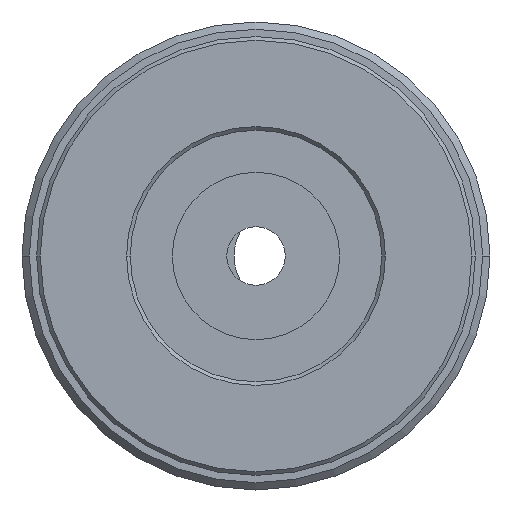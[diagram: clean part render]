
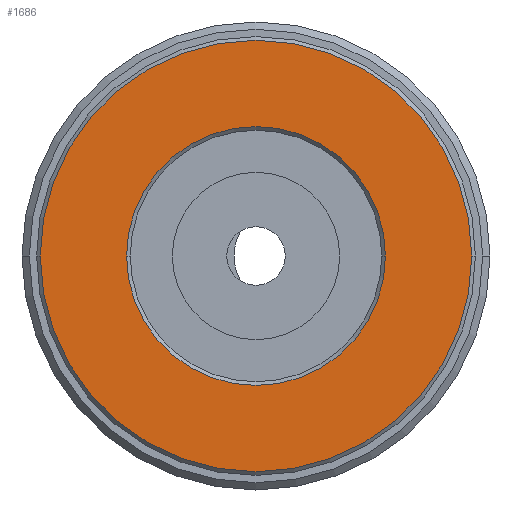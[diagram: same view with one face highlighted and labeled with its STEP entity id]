
A CAD part, front view. The second image highlights one B-rep face of the part: STEP entity #1686.
In plain terms, the highlighted planar face has unit normal (0, -1, 0).
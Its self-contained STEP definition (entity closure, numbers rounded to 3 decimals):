
#23 = CIRCLE ( 'NONE', #1225, 14.75 ) ;
#69 = AXIS2_PLACEMENT_3D ( 'NONE', #1035, #935, #933 ) ;
#175 = EDGE_CURVE ( 'NONE', #2163, #427, #2136, .T. ) ;
#334 = ORIENTED_EDGE ( 'NONE', *, *, #569, .T. ) ;
#427 = VERTEX_POINT ( 'NONE', #1990 ) ;
#449 = DIRECTION ( 'NONE',  ( -1., 0., 0. ) ) ;
#452 = DIRECTION ( 'NONE',  ( 0., -1., 0. ) ) ;
#463 = CARTESIAN_POINT ( 'NONE',  ( 3.431, -20.532, 4.666 ) ) ;
#529 = CIRCLE ( 'NONE', #1412, 14.75 ) ;
#569 = EDGE_CURVE ( 'NONE', #2767, #1087, #529, .T. ) ;
#728 = AXIS2_PLACEMENT_3D ( 'NONE', #3376, #3368, #3365 ) ;
#737 = EDGE_CURVE ( 'NONE', #1087, #2767, #23, .T. ) ;
#888 = CARTESIAN_POINT ( 'NONE',  ( 18.181, -20.532, 4.666 ) ) ;
#933 = DIRECTION ( 'NONE',  ( -1., 0., 0. ) ) ;
#935 = DIRECTION ( 'NONE',  ( 0., 1., 0. ) ) ;
#965 = PLANE ( 'NONE',  #69 ) ;
#1035 = CARTESIAN_POINT ( 'NONE',  ( 12.031, -20.532, 4.666 ) ) ;
#1087 = VERTEX_POINT ( 'NONE', #888 ) ;
#1182 = EDGE_CURVE ( 'NONE', #427, #2163, #1745, .T. ) ;
#1225 = AXIS2_PLACEMENT_3D ( 'NONE', #463, #452, #449 ) ;
#1265 = DIRECTION ( 'NONE',  ( -1., 0., 0. ) ) ;
#1278 = DIRECTION ( 'NONE',  ( 0., -1., 0. ) ) ;
#1288 = CARTESIAN_POINT ( 'NONE',  ( 3.431, -20.532, 4.666 ) ) ;
#1293 = CARTESIAN_POINT ( 'NONE',  ( -11.319, -20.532, 4.666 ) ) ;
#1412 = AXIS2_PLACEMENT_3D ( 'NONE', #1288, #1278, #1265 ) ;
#1686 = ADVANCED_FACE ( 'NONE', ( #3460, #2436 ), #965, .F. ) ;
#1745 = CIRCLE ( 'NONE', #728, 8.85 ) ;
#1760 = EDGE_LOOP ( 'NONE', ( #334, #2951 ) ) ;
#1941 = EDGE_LOOP ( 'NONE', ( #3044, #2276 ) ) ;
#1948 = AXIS2_PLACEMENT_3D ( 'NONE', #3348, #3334, #3323 ) ;
#1990 = CARTESIAN_POINT ( 'NONE',  ( -5.419, -20.532, 4.666 ) ) ;
#2136 = CIRCLE ( 'NONE', #1948, 8.85 ) ;
#2163 = VERTEX_POINT ( 'NONE', #3166 ) ;
#2276 = ORIENTED_EDGE ( 'NONE', *, *, #1182, .T. ) ;
#2436 = FACE_OUTER_BOUND ( 'NONE', #1760, .T. ) ;
#2767 = VERTEX_POINT ( 'NONE', #1293 ) ;
#2951 = ORIENTED_EDGE ( 'NONE', *, *, #737, .T. ) ;
#3044 = ORIENTED_EDGE ( 'NONE', *, *, #175, .T. ) ;
#3166 = CARTESIAN_POINT ( 'NONE',  ( 12.281, -20.532, 4.666 ) ) ;
#3323 = DIRECTION ( 'NONE',  ( -1., 0., 0. ) ) ;
#3334 = DIRECTION ( 'NONE',  ( 0., 1., 0. ) ) ;
#3348 = CARTESIAN_POINT ( 'NONE',  ( 3.431, -20.532, 4.666 ) ) ;
#3365 = DIRECTION ( 'NONE',  ( -1., 0., 0. ) ) ;
#3368 = DIRECTION ( 'NONE',  ( 0., 1., 0. ) ) ;
#3376 = CARTESIAN_POINT ( 'NONE',  ( 3.431, -20.532, 4.666 ) ) ;
#3460 = FACE_BOUND ( 'NONE', #1941, .T. ) ;
